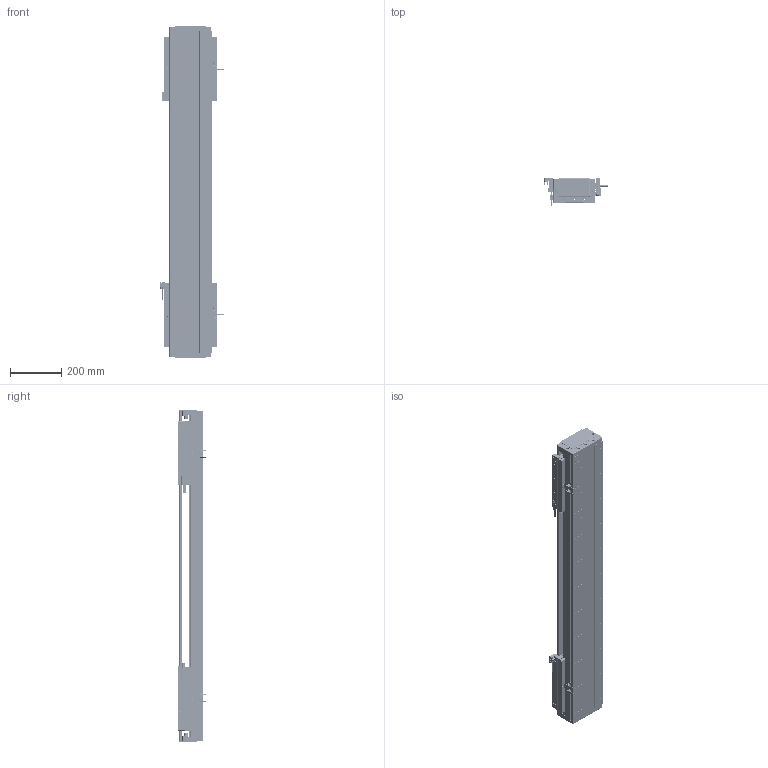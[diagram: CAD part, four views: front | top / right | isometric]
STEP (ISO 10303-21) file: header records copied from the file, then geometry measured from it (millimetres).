
FILE_DESCRIPTION (( 'STEP AP203' ), '1' );
FILE_NAME ('DA-C165-2-C3-T680-C010-0.2 直线电机.STEP', '2023-06-13T09:32:06', ( '微软用户' ), ( '微软中国' ), 'SwSTEP 2.0', 'SolidWorks 2019', '' );
FILE_SCHEMA (( 'CONFIG_CONTROL_DESIGN' ));
Length unit declared in the file: millimetre
Products named in the file (19): 复件 66338-1000-006-00 光电感应块^DA-C165-C3-T-C010-0.2-N 直线电机; 复件 六角薄螺母 M3^DA-C165-C3-T-C010-0.2-N 直线电机_GB_FASTENER_NUT_STNAB M3-C; 复件 CU165 底座^IU-CU165-L 底座导轨_L1260; 复件 DMA-010-0.2 读数头^DA-C165-C3-T-C010-0.2-N 直线电机; 复件 XD-U-02L 磁栅尺^DA-C165-C3-T-C010-0.2-N 直线电机_T; 葩璃 CKM03-W075-C1C2-TP-3.0^DA-C165-C3-T-C010-0.2-N 眻盄萇儂; IU-CU165-L 菁釱絳寢; 复件 DA126-GYP-ZJ-00 中间光电感应片^DA-C165-C3-T-C010-0.2-N 直线电机; 复件 DA165-GYP-00 光电感应片^DA-C165-C3-T-C010-0.2-N 直线电机; 葩璃 PM-T45^DA-C165-C3-T-C010-0.2-N 眻盄萇儂; DA-C165-2-C3-T680-C010-0.2 眻盄萇儂; 葩璃 CKM01-W075-TRL^DA-C165-C3-T-C010-0.2-N 眻盄萇儂; 葩璃 PM-Y45^DA-C165-C3-T-C010-0.2-N 眻盄萇儂; 葩璃 DA95-GT-T-00^IU-CU165-L 菁釱絳寢_T; 复件 DA95-HXJ-00 缓冲橡胶^DA-C165-C3-T-C010-0.2-N 直线电机; 复件 DA165-T-002-00 盖板^DA-C165-C3-T-C010-0.2-N 直线电机_0840-002-00; 复件 DKW-HXJ-JY-00 缓冲橡胶^DA-C165-C3-T-C010-0.2-N 直线电机; 复件 DA165-DG-H-N-00 端盖^DA-C165-C3-T-C010-0.2-N 直线电机; 珨极趙賑雄怢啣C3-wf
Assembly tree (40 placements, depth 3):
  DA-C165-2-C3-T680-C010-0.2 眻盄萇儂
    IU-CU165-L 菁釱絳寢
      复件 CU165 底座^IU-CU165-L 底座导轨_L1260
      葩璃 DA95-GT-T-00^IU-CU165-L 菁釱絳寢_T  x4
    复件 DA165-DG-H-N-00 端盖^DA-C165-C3-T-C010-0.2-N 直线电机  x2
    复件 DA95-HXJ-00 缓冲橡胶^DA-C165-C3-T-C010-0.2-N 直线电机  x4
    复件 DA165-T-002-00 盖板^DA-C165-C3-T-C010-0.2-N 直线电机_0840-002-00
    复件 XD-U-02L 磁栅尺^DA-C165-C3-T-C010-0.2-N 直线电机_T
    葩璃 PM-T45^DA-C165-C3-T-C010-0.2-N 眻盄萇儂  x4
    葩璃 CKM01-W075-TRL^DA-C165-C3-T-C010-0.2-N 眻盄萇儂
    复件 DMA-010-0.2 读数头^DA-C165-C3-T-C010-0.2-N 直线电机  x2
    复件 DA165-GYP-00 光电感应片^DA-C165-C3-T-C010-0.2-N 直线电机  x2
    复件 66338-1000-006-00 光电感应块^DA-C165-C3-T-C010-0.2-N 直线电机
    葩璃 PM-Y45^DA-C165-C3-T-C010-0.2-N 眻盄萇儂
    复件 DA126-GYP-ZJ-00 中间光电感应片^DA-C165-C3-T-C010-0.2-N 直线电机
    葩璃 CKM03-W075-C1C2-TP-3.0^DA-C165-C3-T-C010-0.2-N 眻盄萇儂  x2
    复件 DKW-HXJ-JY-00 缓冲橡胶^DA-C165-C3-T-C010-0.2-N 直线电机  x2
    复件 六角薄螺母 M3^DA-C165-C3-T-C010-0.2-N 直线电机_GB_FASTENER_NUT_STNAB M3-C  x8
    珨极趙賑雄怢啣C3-wf  x2
Bounding box: 247.2 x 111.45 x 1300 mm (x, y, z)
Volume: 11738963.2 mm3; surface area: 2989374.3 mm2
Topology: 117 solids, 217 shells, 5878 faces, 15407 edges, 9468 vertices
Faces by surface type: cylinder 2840, plane 1986, cone 956, torus 88, sphere 8
Entity records: 116204 total; most frequent: CARTESIAN_POINT 27864, DIRECTION 18155, ORIENTED_EDGE 17700, EDGE_CURVE 8850, AXIS2_PLACEMENT_3D 6841, VERTEX_POINT 5722, VECTOR 4473, LINE 4473
